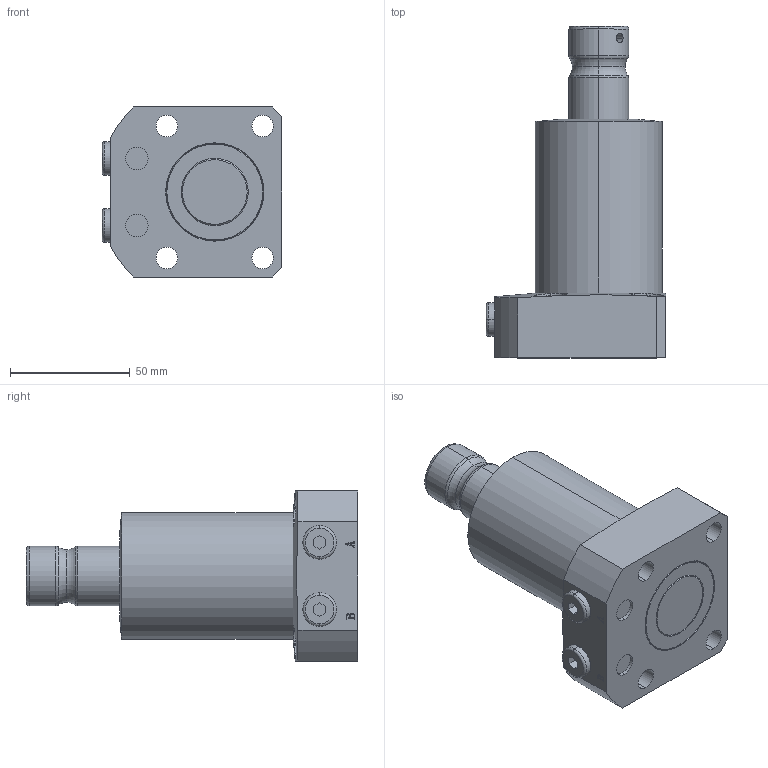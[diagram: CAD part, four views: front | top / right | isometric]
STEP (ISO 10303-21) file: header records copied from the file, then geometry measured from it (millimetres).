
FILE_DESCRIPTION (( 'STEP AP203' ), '1' );
FILE_NAME ('221601-CL.STEP', '2019-06-29T08:04:28', ( '微软用户' ), ( '微软中国' ), 'SwSTEP 2.0', 'SolidWorks 2014', '' );
FILE_SCHEMA (( 'CONFIG_CONTROL_DESIGN' ));
Length unit declared in the file: millimetre
Products named in the file (5): 葩璃 231601.04^221601-CL; 221601-CL; 葩璃 4BN-02WD^221601-CL; 葩璃 221601.02^221601-CL; 葩璃 231601.01^221601-CL
Assembly tree (5 placements, depth 2):
  221601-CL
    葩璃 221601.02^221601-CL
    葩璃 4BN-02WD^221601-CL  x2
    葩璃 231601.01^221601-CL
    葩璃 231601.04^221601-CL
Bounding box: 75 x 138.5 x 71 mm (x, y, z)
Volume: 332351.7 mm3; surface area: 44404.5 mm2
Topology: 5 solids, 5 shells, 193 faces, 439 edges, 278 vertices
Faces by surface type: plane 83, cylinder 54, cone 20, torus 20, bspline 16
Entity records: 6488 total; most frequent: CARTESIAN_POINT 2168, DIRECTION 775, ORIENTED_EDGE 770, EDGE_CURVE 385, AXIS2_PLACEMENT_3D 283, VERTEX_POINT 246, VECTOR 209, LINE 209
